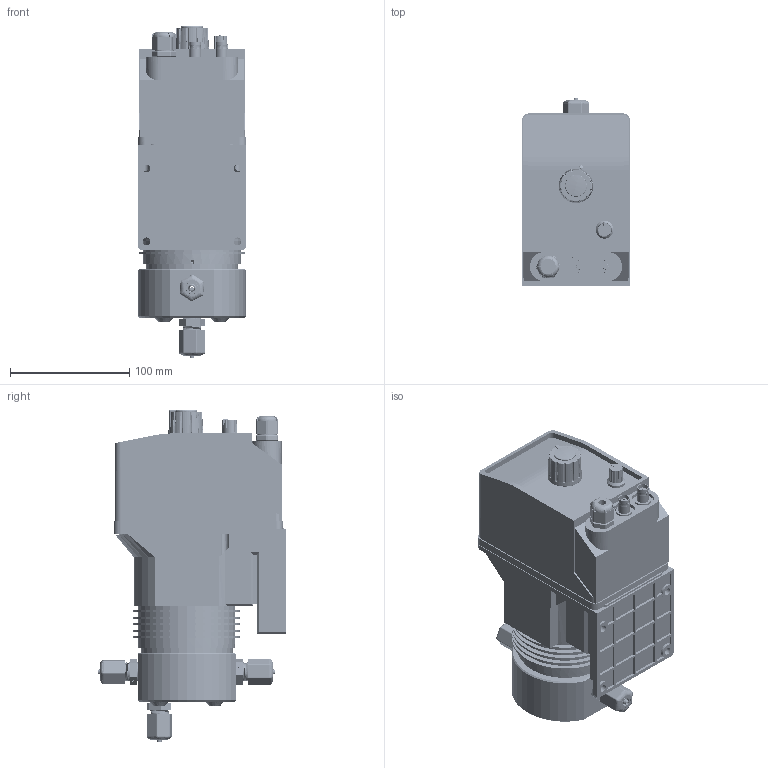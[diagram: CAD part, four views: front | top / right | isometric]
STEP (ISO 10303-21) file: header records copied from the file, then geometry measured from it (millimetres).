
FILE_DESCRIPTION (( 'STEP AP214' ), '1' );
FILE_NAME ('EMEC KA Plus Pump.STEP', '2019-02-07T23:51:36', ( '' ), ( '' ), 'SwSTEP 2.0', 'SolidWorks 2018', '' );
FILE_SCHEMA (( 'AUTOMOTIVE_DESIGN' ));
Length unit declared in the file: millimetre
Products named in the file (34): EMEC A series pump - Sroke Adjusment Knob Position Indicator; Bolt - SS - Allen Socket Head - M5x0.75 - 50mm_M5 x 50mm; EMEC A series pump - Sroke Adjusment Knob; Washer - SS - M5 - 14.7mm; O-Ring - 39.75 x 2.6 - Head O-Ring; EMEC K series pump - Face (Bare); EMEC KA series pump - Head - PMMA; EMEC K series pump - Foot; EMEC K series pump - Diaphgram; EMEC KCO pump face; EMEC KA Pump Head - PMMA; EMEC KA Plus Pump; Gland - 16mm; Valve - 3_8in (Suction-Discharge-Bleed)_Bleed Valve; Gland - 16mm - Bush; Discharge Valve - 3_8in - Body_Bleed Valve; Gland - 16mm - Body; EMEC K series pump - Stroke Frequency Knob; Valve - 3_8in (Suction-Discharge-Bleed)_Discharge Valve; Valve - 3_8in (Suction-Discharge-Bleed)_Suction Valve; EMEC K series pump - Stroke Frequency Grommet; EMEC 025.XXXX.X - Hose Fitting Kit - 3_8in 4x6 - PVDF_Hose Fitting Kit - 3_8in - 4x6 - FP; Hose Fitting Kit - 3_8in - Nut - PVDF; EMEC A series pump - Sroke Adjusment Shaft; Hose Fitting Kit - 3_8in - 4x6 Clamp; Hose Fitting Kit - 3_8in - 4x6 Cone; BNC SocketLarge; O-Ring - 12.15 x 1.7; BNC - Centre Socket - Large; Discharge Valve - 3_8in - Body; BNC - Centre Bush - Large; Head Valve Seat - EMEC KA series; BNC - Body - Large; Bolt Cap - Rubber - Large
Assembly tree (51 placements, depth 5):
  EMEC KA Plus Pump
    EMEC K series pump - Foot
    EMEC KCO pump face
      EMEC K series pump - Face (Bare)
      EMEC A series pump - Sroke Adjusment Knob
      EMEC A series pump - Sroke Adjusment Knob Position Indicator
      BNC SocketLarge  x2
        BNC - Body - Large
        BNC - Centre Bush - Large
        BNC - Centre Socket - Large
      EMEC A series pump - Sroke Adjusment Shaft
      EMEC K series pump - Stroke Frequency Grommet
      EMEC K series pump - Stroke Frequency Knob
      Gland - 16mm
        Gland - 16mm - Body
        Gland - 16mm - Bush
    EMEC K series pump - Diaphgram
    EMEC KA Pump Head - PMMA
      EMEC KA series pump - Head - PMMA
      O-Ring - 39.75 x 2.6 - Head O-Ring
      Washer - SS - M5 - 14.7mm  x4
      Bolt - SS - Allen Socket Head - M5x0.75 - 50mm_M5 x 50mm  x4
      Bolt Cap - Rubber - Large  x4
      Head Valve Seat - EMEC KA series
      Valve - 3_8in (Suction-Discharge-Bleed)_Suction Valve
        Discharge Valve - 3_8in - Body
        O-Ring - 12.15 x 1.7  x2
        EMEC 025.XXXX.X - Hose Fitting Kit - 3_8in 4x6 - PVDF_Hose Fitting Kit - 3_8in - 4x6 - FP
          Hose Fitting Kit - 3_8in - 4x6 Cone
          Hose Fitting Kit - 3_8in - 4x6 Clamp
          Hose Fitting Kit - 3_8in - Nut - PVDF
      Valve - 3_8in (Suction-Discharge-Bleed)_Discharge Valve
        Discharge Valve - 3_8in - Body
        O-Ring - 12.15 x 1.7  x2
        EMEC 025.XXXX.X - Hose Fitting Kit - 3_8in 4x6 - PVDF_Hose Fitting Kit - 3_8in - 4x6 - FP
          Hose Fitting Kit - 3_8in - 4x6 Cone
          Hose Fitting Kit - 3_8in - 4x6 Clamp
          Hose Fitting Kit - 3_8in - Nut - PVDF
      Valve - 3_8in (Suction-Discharge-Bleed)_Bleed Valve
        Discharge Valve - 3_8in - Body_Bleed Valve
        O-Ring - 12.15 x 1.7  x2
        EMEC 025.XXXX.X - Hose Fitting Kit - 3_8in 4x6 - PVDF_Hose Fitting Kit - 3_8in - 4x6 - FP
          Hose Fitting Kit - 3_8in - 4x6 Cone
          Hose Fitting Kit - 3_8in - 4x6 Clamp
          Hose Fitting Kit - 3_8in - Nut - PVDF
Bounding box: 91 x 158.05 x 278.4 mm (x, y, z)
Volume: 626422.6 mm3; surface area: 321193.2 mm2
Topology: 55 solids, 58 shells, 3405 faces, 8716 edges, 5547 vertices
Faces by surface type: plane 1408, cylinder 1231, bspline 287, torus 261, cone 203, sphere 15
Entity records: 107120 total; most frequent: CARTESIAN_POINT 44464, ORIENTED_EDGE 13596, DIRECTION 11843, EDGE_CURVE 6798, VERTEX_POINT 4383, AXIS2_PLACEMENT_3D 4367, LINE 3109, VECTOR 3109
